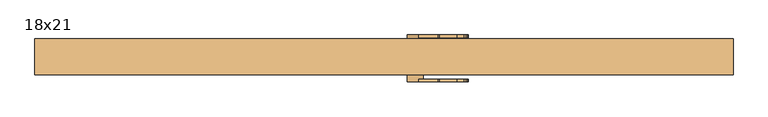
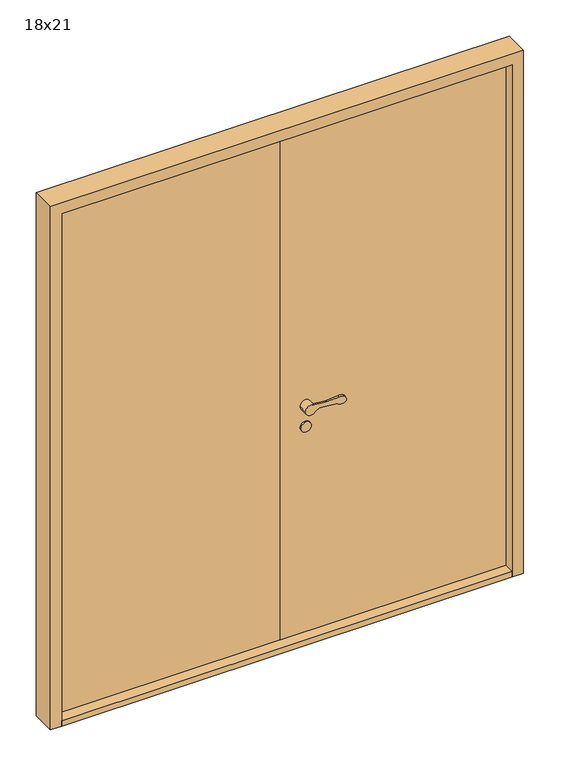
"""IFC4 building model written with IfcOpenShell, lengths in millimetres: door geometry, Innerdør stål branndør A dobbel : 18x21."""

from ifc_helpers import new_model, si_unit, point, frame, frame_2d, origin, origin_with_axes, place, context, project, spatial, polyline, circle_curve, trimmed, segment, composite_curve, outline, extrude, source, transform, mapped, element, save
from ifc_brep_helpers import plane_surface, cylinder_surface, revolved_surface, advanced_brep


def door_18x21_0508fdc8(model_context):
    return source(origin(), model_context, "Body", "SolidModel", [
        advanced_brep(
        [(165.7981356, 100.0, 947.7701387), (151.37515, 100.0, 941.2729519), (113.379633, 100.0, 950.0), (142.4904868, 100.0, 967.8042788), (191.0701428, 100.0, 962.9128632), (196.1390503, 100.0, 962.8329847), (240.8629486, 100.0, 965.9164674), (259.4416992, 100.0, 963.5335945), (264.2542571, 100.0, 958.6149507), (267.8900678, 100.0, 950.5438812), (263.0377301, 100.0, 937.3918831), (233.7116552, 100.0, 942.2785443), (170.9071997, 100.0, 948.6022345), (191.0701428, 92.8915284, 962.9128632), (142.4904868, 92.8915284, 967.8042788), (153.379633, 92.8915284, 950.0), (151.37515, 92.8915284, 941.2729519), (165.7981356, 92.8915284, 947.7701387), (170.9071997, 92.8915284, 948.6022345), (233.7116552, 92.8915284, 942.2785443), (263.0377301, 92.8915284, 937.3918831), (267.8900678, 92.8915284, 950.5438812), (264.2542571, 92.8915284, 958.6149507), (259.4416992, 92.8915284, 963.5335945), (240.8629486, 92.8915284, 965.9164674), (196.1390503, 92.8915284, 962.8329847), (113.379633, 65.0, 950.0), (153.379633, 65.0, 950.0)],
        [
            (0, 1),
            (1, 2, circle_curve(frame((133.379633, 100.0, 950.0), z_axis=(0.0, 1.0, 0.0), x_axis=(1.0, 0.0, 0.0)), 20.0)),
            (2, 3, circle_curve(frame((133.379633, 100.0, 950.0), z_axis=(0.0, 1.0, 0.0), x_axis=(1.0, 0.0, 0.0)), 20.0)),
            (3, 4),
            (4, 5, circle_curve(frame((194.0756031, 100.0, 992.761937), z_axis=(0.0, -1.0, 0.0), x_axis=(0.9949691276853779, 0.0, -0.10018200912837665)), 30.0)),
            (5, 6),
            (6, 7, circle_curve(frame((246.5265864, 100.0, 936.455931), z_axis=(0.0, 1.0, 0.0), x_axis=(0.9949691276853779, 0.0, -0.10018200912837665)), 30.0)),
            (7, 8, circle_curve(frame((255.1366616, 100.0, 954.5077067), z_axis=(0.0, 1.0, 0.0), x_axis=(0.9949691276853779, 0.0, -0.10018200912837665)), 10.0)),
            (8, 9),
            (9, 10, circle_curve(frame((258.7724724, 100.0, 946.4366372), z_axis=(0.0, 1.0, 0.0), x_axis=(0.9949691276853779, 0.0, -0.10018200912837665)), 10.0)),
            (10, 11, circle_curve(frame((251.9023017, 100.0, 961.0052772), z_axis=(0.0, 1.0, 0.0), x_axis=(0.9949691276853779, 0.0, -0.10018200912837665)), 26.1072815)),
            (11, 12),
            (12, 0, circle_curve(frame((169.9053796, 100.0, 938.6525432), z_axis=(0.0, -1.0, 0.0), x_axis=(0.9949691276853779, 0.0, -0.10018200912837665)), 10.0)),
            (13, 14),
            (14, 15, circle_curve(frame((133.379633, 92.8915284, 950.0), z_axis=(0.0, 1.0, 0.0), x_axis=(1.0, 0.0, 0.0)), 20.0)),
            (15, 16, circle_curve(frame((133.379633, 92.8915284, 950.0), z_axis=(0.0, 1.0, 0.0), x_axis=(1.0, 0.0, 0.0)), 20.0)),
            (16, 17),
            (17, 18, circle_curve(frame((169.9053796, 92.8915284, 938.6525432), z_axis=(0.0, 1.0, 0.0), x_axis=(0.9949691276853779, 0.0, -0.10018200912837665)), 10.0)),
            (18, 19),
            (19, 20, circle_curve(frame((251.9023017, 92.8915284, 961.0052772), z_axis=(0.0, -1.0, 0.0), x_axis=(0.9949691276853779, 0.0, -0.10018200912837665)), 26.1072815)),
            (20, 21, circle_curve(frame((258.7724724, 92.8915284, 946.4366372), z_axis=(0.0, -1.0, 0.0), x_axis=(0.9949691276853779, 0.0, -0.10018200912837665)), 10.0)),
            (21, 22),
            (22, 23, circle_curve(frame((255.1366616, 92.8915284, 954.5077067), z_axis=(0.0, -1.0, 0.0), x_axis=(0.9949691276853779, 0.0, -0.10018200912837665)), 10.0)),
            (23, 24, circle_curve(frame((246.5265864, 92.8915284, 936.455931), z_axis=(0.0, -1.0, 0.0), x_axis=(0.9949691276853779, 0.0, -0.10018200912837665)), 30.0)),
            (24, 25),
            (25, 13, circle_curve(frame((194.0756031, 92.8915284, 992.761937), z_axis=(0.0, 1.0, 0.0), x_axis=(0.9949691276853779, 0.0, -0.10018200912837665)), 30.0)),
            (3, 14),
            (13, 4),
            (16, 1),
            (0, 17),
            (12, 18),
            (11, 19),
            (10, 20),
            (9, 21),
            (8, 22),
            (7, 23),
            (6, 24),
            (5, 25),
            (26, 27, circle_curve(frame((133.379633, 65.0, 950.0), z_axis=(0.0, -1.0, 0.0), x_axis=(1.0, 0.0, 0.0)), 20.0)),
            (27, 26, circle_curve(frame((133.379633, 65.0, 950.0), z_axis=(0.0, -1.0, 0.0), x_axis=(1.0, 0.0, 0.0)), 20.0)),
            (26, 2),
            (15, 27),
        ],
        [
            plane_surface(frame((142.0632073, 100.0, 967.847301), z_axis=(0.0, 1.0000000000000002, 0.0), x_axis=(-0.9949691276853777, 0.0, 0.10018200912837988))),
            plane_surface(frame((142.0632073, 92.8915284, 967.847301), z_axis=(0.0, -1.0000000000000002, 0.0), x_axis=(0.9949691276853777, 0.0, -0.10018200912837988))),
            plane_surface(frame((191.0701428, 100.0, 962.9128632), z_axis=(0.10018200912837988, 0.0, 0.9949691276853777), x_axis=(0.0, -1.0, 0.0))),
            plane_surface(frame((132.7905295, 100.0, 932.9010548), z_axis=(0.41072439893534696, 0.0, -0.91175954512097), x_axis=(0.0, -1.0, 0.0))),
            revolved_surface(polyline([(179.85507087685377, 92.8915284, 937.6507231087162), (179.85507087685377, 100.0, 937.6507231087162)]), (169.9053796, 92.8915284, 938.6525432), (0.0, -1.0, 0.0)),
            plane_surface(frame((170.9071997, 100.0, 948.6022345), z_axis=(-0.10018200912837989, 0.0, -0.9949691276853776), x_axis=(0.0, -1.0, 0.0))),
            cylinder_surface(frame((251.9023017, 92.8915284, 961.0052772), z_axis=(0.0, 1.0, 0.0), x_axis=(0.9949691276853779, 0.0, -0.10018200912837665)), 26.1072815),
            cylinder_surface(frame((258.7724724, 92.8915284, 946.4366372), z_axis=(0.0, 1.0, 0.0), x_axis=(0.9949691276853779, 0.0, -0.10018200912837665)), 10.0),
            plane_surface(frame((267.8900678, 100.0, 950.5438812), z_axis=(0.9117595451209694, 0.0, 0.41072439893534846), x_axis=(0.0, -1.0, 0.0))),
            cylinder_surface(frame((255.1366616, 92.8915284, 954.5077067), z_axis=(0.0, 1.0, 0.0), x_axis=(0.9949691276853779, 0.0, -0.10018200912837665)), 10.0),
            cylinder_surface(frame((246.5265864, 92.8915284, 936.455931), z_axis=(0.0, 1.0, 0.0), x_axis=(0.9949691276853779, 0.0, -0.10018200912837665)), 30.0),
            plane_surface(frame((240.8629486, 100.0, 965.9164674), z_axis=(-0.06878157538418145, 0.0, 0.9976317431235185), x_axis=(0.0, -1.0, 0.0))),
            revolved_surface(polyline([(223.92467693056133, 92.8915284, 989.7564767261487), (223.92467693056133, 100.0, 989.7564767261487)]), (194.0756031, 92.8915284, 992.761937), (0.0, -1.0, 0.0)),
            plane_surface(frame((153.379633, 65.0, 950.0), z_axis=(0.0, -1.0, 0.0), x_axis=(0.0, 0.0, -1.0))),
            cylinder_surface(frame((133.379633, 65.0, 950.0), z_axis=(0.0, 1.0, 0.0), x_axis=(1.0, 0.0, 0.0)), 20.0),
        ],
        [
            (0, [[1, 2, 3, 4, 5, 6, 7, 8, 9, 10, 11, 12, 13]]),
            (1, [[14, 15, 16, 17, 18, 19, 20, 21, 22, 23, 24, 25, 26]]),
            (2, [[-4, 27, -14, 28]]),
            (3, [[-17, 29, -1, 30]]),
            (4, [[31, -18, -30, -13]]),
            (5, [[32, -19, -31, -12]]),
            (6, [[33, -20, -32, -11]]),
            (7, [[34, -21, -33, -10]]),
            (8, [[35, -22, -34, -9]]),
            (9, [[36, -23, -35, -8]]),
            (10, [[37, -24, -36, -7]]),
            (11, [[38, -25, -37, -6]]),
            (12, [[-28, -26, -38, -5]]),
            (13, [[39, 40]]),
            (14, [[41, -2, -29, -16, 42, -39]]),
            (14, [[-42, -15, -27, -3, -41, -40]]),
        ],
    ),
        extrude(outline(composite_curve([segment(trimmed(circle_curve(frame_2d((865.0, 133.379633)), 20.0), [point((865.0, 113.379633))], [point((865.0, 153.379633))], False, "CARTESIAN"), True, "CONTINUOUS"), segment(trimmed(circle_curve(frame_2d((865.0, 133.379633)), 20.0), [point((865.0, 153.379633))], [point((865.0, 113.379633))], False, "CARTESIAN"), True, "CONTINUOUS")], self_intersect=False)), frame((0.0, 65.0, 0.0), z_axis=(0.0, 1.0, 0.0), x_axis=(0.0, 0.0, 1.0)), (0.0, 0.0, 1.0), 5.0),
        advanced_brep(
        [(165.7981356, -20.0, 947.7701387), (170.9071997, -20.0, 948.6022345), (233.7116552, -20.0, 942.2785443), (263.0377301, -20.0, 937.3918831), (267.8900678, -20.0, 950.5438812), (264.2542571, -20.0, 958.6149507), (259.4416992, -20.0, 963.5335945), (240.8629486, -20.0, 965.9164674), (196.1390503, -20.0, 962.8329847), (191.0701428, -20.0, 962.9128632), (142.4904868, -20.0, 967.8042788), (113.379633, -20.0, 950.0), (151.37515, -20.0, 941.2729519), (191.0701428, -12.8915284, 962.9128632), (196.1390503, -12.8915284, 962.8329847), (240.8629486, -12.8915284, 965.9164674), (259.4416992, -12.8915284, 963.5335945), (264.2542571, -12.8915284, 958.6149507), (267.8900678, -12.8915284, 950.5438812), (263.0377301, -12.8915284, 937.3918831), (233.7116552, -12.8915284, 942.2785443), (170.9071997, -12.8915284, 948.6022345), (165.7981356, -12.8915284, 947.7701387), (151.37515, -12.8915284, 941.2729519), (153.379633, -12.8915284, 950.0), (142.4904868, -12.8915284, 967.8042788), (113.379633, 15.0, 950.0), (153.379633, 15.0, 950.0)],
        [
            (0, 1, circle_curve(frame((169.9053796, -20.0, 938.6525432), z_axis=(0.0, 1.0, 0.0), x_axis=(0.9949691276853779, 0.0, -0.10018200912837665)), 10.0)),
            (1, 2),
            (2, 3, circle_curve(frame((251.9023017, -20.0, 961.0052772), z_axis=(0.0, -1.0, 0.0), x_axis=(0.9949691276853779, 0.0, -0.10018200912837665)), 26.1072815)),
            (3, 4, circle_curve(frame((258.7724724, -20.0, 946.4366372), z_axis=(0.0, -1.0, 0.0), x_axis=(0.9949691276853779, 0.0, -0.10018200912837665)), 10.0)),
            (4, 5),
            (5, 6, circle_curve(frame((255.1366616, -20.0, 954.5077067), z_axis=(0.0, -1.0, 0.0), x_axis=(0.9949691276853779, 0.0, -0.10018200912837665)), 10.0)),
            (6, 7, circle_curve(frame((246.5265864, -20.0, 936.455931), z_axis=(0.0, -1.0, 0.0), x_axis=(0.9949691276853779, 0.0, -0.10018200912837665)), 30.0)),
            (7, 8),
            (8, 9, circle_curve(frame((194.0756031, -20.0, 992.761937), z_axis=(0.0, 1.0, 0.0), x_axis=(0.9949691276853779, 0.0, -0.10018200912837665)), 30.0)),
            (9, 10),
            (10, 11, circle_curve(frame((133.379633, -20.0, 950.0), z_axis=(0.0, -1.0, 0.0), x_axis=(1.0, 0.0, 0.0)), 20.0)),
            (11, 12, circle_curve(frame((133.379633, -20.0, 950.0), z_axis=(0.0, -1.0, 0.0), x_axis=(1.0, 0.0, 0.0)), 20.0)),
            (12, 0),
            (13, 14, circle_curve(frame((194.0756031, -12.8915284, 992.761937), z_axis=(0.0, -1.0, 0.0), x_axis=(0.9949691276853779, 0.0, -0.10018200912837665)), 30.0)),
            (14, 15),
            (15, 16, circle_curve(frame((246.5265864, -12.8915284, 936.455931), z_axis=(0.0, 1.0, 0.0), x_axis=(0.9949691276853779, 0.0, -0.10018200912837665)), 30.0)),
            (16, 17, circle_curve(frame((255.1366616, -12.8915284, 954.5077067), z_axis=(0.0, 1.0, 0.0), x_axis=(0.9949691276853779, 0.0, -0.10018200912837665)), 10.0)),
            (17, 18),
            (18, 19, circle_curve(frame((258.7724724, -12.8915284, 946.4366372), z_axis=(0.0, 1.0, 0.0), x_axis=(0.9949691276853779, 0.0, -0.10018200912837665)), 10.0)),
            (19, 20, circle_curve(frame((251.9023017, -12.8915284, 961.0052772), z_axis=(0.0, 1.0, 0.0), x_axis=(0.9949691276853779, 0.0, -0.10018200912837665)), 26.1072815)),
            (20, 21),
            (21, 22, circle_curve(frame((169.9053796, -12.8915284, 938.6525432), z_axis=(0.0, -1.0, 0.0), x_axis=(0.9949691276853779, 0.0, -0.10018200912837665)), 10.0)),
            (22, 23),
            (23, 24, circle_curve(frame((133.379633, -12.8915284, 950.0), z_axis=(0.0, -1.0, 0.0), x_axis=(1.0, 0.0, 0.0)), 20.0)),
            (24, 25, circle_curve(frame((133.379633, -12.8915284, 950.0), z_axis=(0.0, -1.0, 0.0), x_axis=(1.0, 0.0, 0.0)), 20.0)),
            (25, 13),
            (9, 13),
            (25, 10),
            (22, 0),
            (12, 23),
            (21, 1),
            (20, 2),
            (19, 3),
            (18, 4),
            (17, 5),
            (16, 6),
            (15, 7),
            (14, 8),
            (26, 27, circle_curve(frame((133.379633, 15.0, 950.0), z_axis=(0.0, 1.0, 0.0), x_axis=(1.0, 0.0, 0.0)), 20.0)),
            (27, 26, circle_curve(frame((133.379633, 15.0, 950.0), z_axis=(0.0, 1.0, 0.0), x_axis=(1.0, 0.0, 0.0)), 20.0)),
            (27, 24),
            (11, 26),
        ],
        [
            plane_surface(frame((142.0632073, -20.0, 967.847301), z_axis=(0.0, -1.0000000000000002, 0.0), x_axis=(-0.9949691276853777, 0.0, 0.10018200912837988))),
            plane_surface(frame((142.0632073, -12.8915284, 967.847301), z_axis=(0.0, 1.0000000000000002, 0.0), x_axis=(0.9949691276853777, 0.0, -0.10018200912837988))),
            plane_surface(frame((191.0701428, -20.0, 962.9128632), z_axis=(0.10018200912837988, 0.0, 0.9949691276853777), x_axis=(0.0, 1.0, 0.0))),
            plane_surface(frame((132.7905295, -20.0, 932.9010548), z_axis=(0.41072439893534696, 0.0, -0.91175954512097), x_axis=(0.0, 1.0, 0.0))),
            revolved_surface(polyline([(179.85507087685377, -12.8915284, 937.6507231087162), (179.85507087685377, -20.0, 937.6507231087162)]), (169.9053796, -12.8915284, 938.6525432), (0.0, 1.0, 0.0)),
            plane_surface(frame((170.9071997, -20.0, 948.6022345), z_axis=(-0.10018200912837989, 0.0, -0.9949691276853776), x_axis=(0.0, 1.0, 0.0))),
            cylinder_surface(frame((251.9023017, -12.8915284, 961.0052772), z_axis=(0.0, -1.0, 0.0), x_axis=(0.9949691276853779, 0.0, -0.10018200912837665)), 26.1072815),
            cylinder_surface(frame((258.7724724, -12.8915284, 946.4366372), z_axis=(0.0, -1.0, 0.0), x_axis=(0.9949691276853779, 0.0, -0.10018200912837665)), 10.0),
            plane_surface(frame((267.8900678, -20.0, 950.5438812), z_axis=(0.9117595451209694, 0.0, 0.41072439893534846), x_axis=(0.0, 1.0, 0.0))),
            cylinder_surface(frame((255.1366616, -12.8915284, 954.5077067), z_axis=(0.0, -1.0, 0.0), x_axis=(0.9949691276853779, 0.0, -0.10018200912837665)), 10.0),
            cylinder_surface(frame((246.5265864, -12.8915284, 936.455931), z_axis=(0.0, -1.0, 0.0), x_axis=(0.9949691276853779, 0.0, -0.10018200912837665)), 30.0),
            plane_surface(frame((240.8629486, -20.0, 965.9164674), z_axis=(-0.06878157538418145, 0.0, 0.9976317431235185), x_axis=(0.0, 1.0, 0.0))),
            revolved_surface(polyline([(223.92467693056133, -12.8915284, 989.7564767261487), (223.92467693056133, -20.0, 989.7564767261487)]), (194.0756031, -12.8915284, 992.761937), (0.0, 1.0, 0.0)),
            plane_surface(frame((153.379633, 15.0, 950.0), z_axis=(0.0, 1.0, 0.0), x_axis=(0.0, 0.0, -1.0))),
            cylinder_surface(frame((133.379633, 15.0, 950.0), z_axis=(0.0, -1.0, 0.0), x_axis=(1.0, 0.0, 0.0)), 20.0),
        ],
        [
            (0, [[1, 2, 3, 4, 5, 6, 7, 8, 9, 10, 11, 12, 13]]),
            (1, [[14, 15, 16, 17, 18, 19, 20, 21, 22, 23, 24, 25, 26]]),
            (2, [[27, -26, 28, -10]]),
            (3, [[29, -13, 30, -23]]),
            (4, [[-1, -29, -22, 31]]),
            (5, [[-2, -31, -21, 32]]),
            (6, [[-3, -32, -20, 33]]),
            (7, [[-4, -33, -19, 34]]),
            (8, [[-5, -34, -18, 35]]),
            (9, [[-6, -35, -17, 36]]),
            (10, [[-7, -36, -16, 37]]),
            (11, [[-8, -37, -15, 38]]),
            (12, [[-9, -38, -14, -27]]),
            (13, [[39, 40]]),
            (14, [[-40, 41, -24, -30, -12, 42]]),
            (14, [[-39, -42, -11, -28, -25, -41]]),
        ],
    ),
        extrude(outline(composite_curve([segment(trimmed(circle_curve(frame_2d((865.0, 133.379633)), 20.0), [point((865.0, 113.379633))], [point((865.0, 153.379633))], False, "CARTESIAN"), True, "CONTINUOUS"), segment(trimmed(circle_curve(frame_2d((865.0, 133.379633)), 20.0), [point((865.0, 153.379633))], [point((865.0, 113.379633))], False, "CARTESIAN"), True, "CONTINUOUS")], self_intersect=False)), frame((0.0, 10.0, 0.0), z_axis=(0.0, 1.0, 0.0), x_axis=(0.0, 0.0, 1.0)), (0.0, 0.0, 1.0), 5.0),
        extrude(outline(polyline([(906.379633, 40.0), (53.379633, 40.0), (53.379633, 90.0), (906.379633, 90.0), (906.379633, 40.0)])), frame((0.0, 0.0, 22.0), z_axis=(0.0, 0.0, 1.0), x_axis=(1.0, 0.0, 0.0)), (0.0, 0.0, 1.0), 2031.0),
        extrude(outline(polyline([(906.379633, -2.0), (-799.620367, -2.0), (-799.620367, 90.0), (906.379633, 90.0), (906.379633, -2.0)])), origin_with_axes(), (0.0, 0.0, 1.0), 22.0),
        extrude(outline(polyline([(53.379633, 40.0), (-799.620367, 40.0), (-799.620367, 90.0), (53.379633, 90.0), (53.379633, 40.0)])), frame((0.0, 0.0, 22.0), z_axis=(0.0, 0.0, 1.0), x_axis=(1.0, 0.0, 0.0)), (0.0, 0.0, 1.0), 2031.0),
        extrude(outline(polyline([(0.0, -841.620367), (0.0, -799.620367), (2053.0, -799.620367), (2053.0, 906.379633), (0.0, 906.379633), (0.0, 948.379633), (2095.0, 948.379633), (2095.0, -841.620367), (0.0, -841.620367)])), frame((0.0, -2.0, 0.0), z_axis=(0.0, 1.0, 0.0), x_axis=(0.0, 0.0, 1.0)), (0.0, 0.0, 1.0), 92.0),
    ])


if __name__ == "__main__":
    model = new_model("IFC4")
    model_context = context("Model", 3, world=origin())
    ifc_project = project(units=[si_unit("LENGTHUNIT", "METRE", prefix="MILLI")], contexts=[model_context])
    site = spatial("IfcSite", under=ifc_project)
    building = spatial("IfcBuilding", under=site)
    placement = place(None, origin())
    door_18x21_shape = door_18x21_0508fdc8(model_context)
    element("IfcDoor", 1, ObjectType="Innerdør stål branndør A dobbel : 18x21", at=placement, inside=building, context=model_context, shape_type="MappedRepresentation", body=[
        mapped(door_18x21_shape, transform((0.0, 0.0, 0.0), x_axis=(1.0, 0.0, 0.0), y_axis=(0.0, 1.0, 0.0), z_axis=(0.0, 0.0, 1.0))),
    ])
    save(model, "model.ifc")
